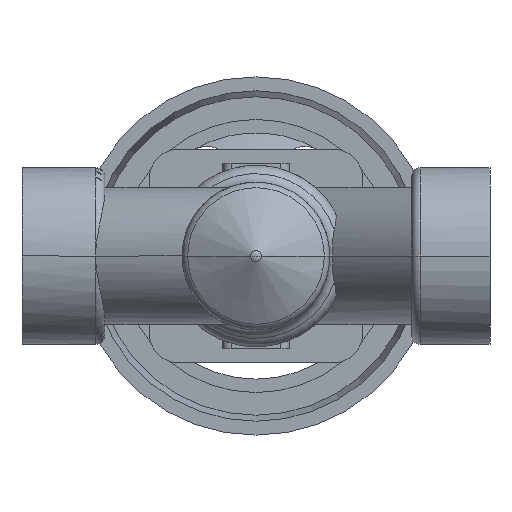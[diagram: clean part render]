
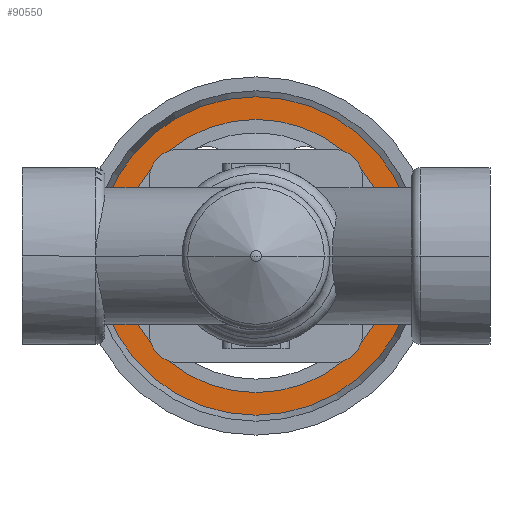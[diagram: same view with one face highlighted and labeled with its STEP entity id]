
A CAD part, front view. The second image highlights one B-rep face of the part: STEP entity #90550.
In plain terms, the highlighted planar face has unit normal (0, -1, 0).
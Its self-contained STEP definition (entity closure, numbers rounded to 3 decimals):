
#90000=CARTESIAN_POINT('',(175.609,289.4,0.)
);
#90010=VERTEX_POINT('',#90000);
#90090=CARTESIAN_POINT('',(33.391,289.4,0.));
#90100=VERTEX_POINT('',#90090);
#90130=CARTESIAN_POINT('',(104.5,289.4,0.));
#90140=DIRECTION('',(0.,1.,0.));
#90150=DIRECTION('',(-1.,0.,0.));
#90160=AXIS2_PLACEMENT_3D('',#90130,#90140,#90150);
#90170=CIRCLE('',#90160,71.109);
#90180=EDGE_CURVE('',#90010,#90100,#90170,.T.);
#90300=CARTESIAN_POINT('',(38.446,289.4,0.))
;
#90310=DIRECTION('',(0.,-1.,0.));
#90320=DIRECTION('',(1.,0.,0.));
#90330=AXIS2_PLACEMENT_3D('',#90300,#90310,#90320);
#90340=PLANE('',#90330);
#90350=EDGE_CURVE('',#90100,#90010,#90170,.T.);
#90360=ORIENTED_EDGE('',*,*,#90350,.F.);
#90370=ORIENTED_EDGE('',*,*,#90180,.F.);
#90380=EDGE_LOOP('',(#90370,#90360));
#90390=FACE_OUTER_BOUND('',#90380,.T.);
#90400=CARTESIAN_POINT('',(104.5,289.4,0.));
#90410=DIRECTION('',(0.,1.,0.));
#90420=DIRECTION('',(-1.,0.,0.));
#90430=AXIS2_PLACEMENT_3D('',#90400,#90410,#90420);
#90440=CIRCLE('',#90430,61.);
#90450=CARTESIAN_POINT('',(165.5,289.4,0.));
#90460=VERTEX_POINT('',#90450);
#90470=CARTESIAN_POINT('',(43.5,289.4,0.));
#90480=VERTEX_POINT('',#90470);
#90490=EDGE_CURVE('',#90460,#90480,#90440,.T.);
#90500=ORIENTED_EDGE('',*,*,#90490,.T.);
#90510=EDGE_CURVE('',#90480,#90460,#90440,.T.);
#90520=ORIENTED_EDGE('',*,*,#90510,.T.);
#90530=EDGE_LOOP('',(#90520,#90500));
#90540=FACE_BOUND('',#90530,.T.);
#90550=ADVANCED_FACE('',(#90390,#90540),#90340,.T.);
